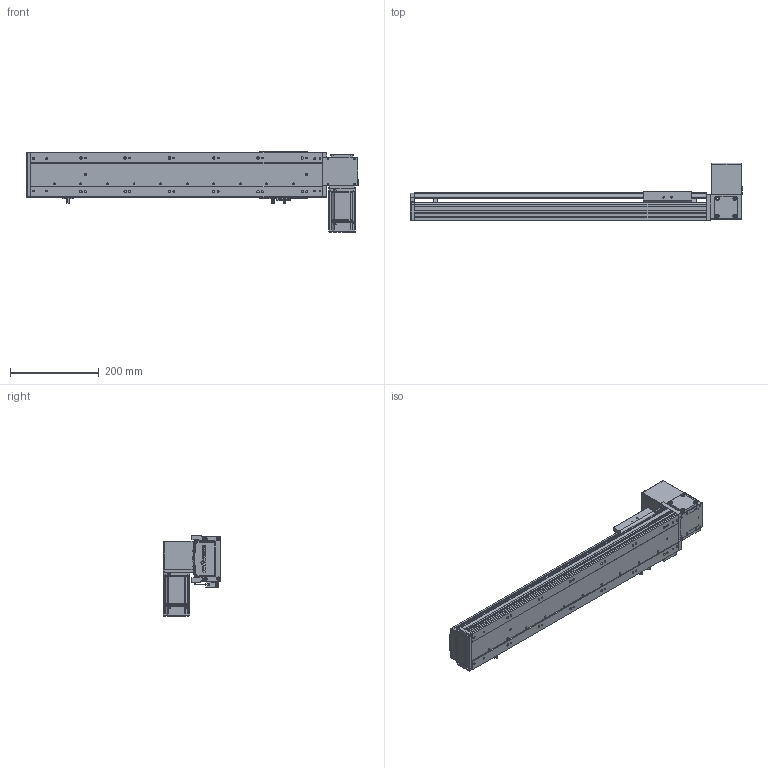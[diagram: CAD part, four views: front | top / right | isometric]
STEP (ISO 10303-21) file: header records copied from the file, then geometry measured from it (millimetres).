
FILE_DESCRIPTION (( 'STEP AP203' ), '1' );
FILE_NAME ('RY100-T-300-UL.SLDASM_450.step', '2024-04-25T08:39:18', ( '盈信电脑' ), ( '东莞市道滘镇水果街19号' ), 'SwSTEP 2.0', 'SolidWorks 2016', '' );
FILE_SCHEMA (( 'CONFIG_CONTROL_DESIGN' ));
Length unit declared in the file: millimetre
Products named in the file (15): 滅袉蝶18-10; RY80-T肮祭謫奻殏俋欶; RY100-T翋肮祭謫裔啣; RY100-T粣創揤踡裔; RY100-T-300-UL.SLDASM_450; 覜茼ん672; RY100-T肮祭謫臏賑輸; RY100-T-300-RK倰第菁釱_450; RY100綴裔啣; RY100-T翋肮祭謫裔啣2; RY100俋离覜茼え; 1; RY100-T左右折电机安装板; RY100-T肮祭謫翋盓傅釱; RY100-T-300-RK倰第奻裔_450
Assembly tree (17 placements, depth 2):
  RY100-T-300-UL.SLDASM_450
    RY100-T-300-RK倰第菁釱_450
    RY100-T-300-RK倰第奻裔_450
    RY100-T肮祭謫臏賑輸
    RY100綴裔啣
    覜茼ん672  x3
    RY100俋离覜茼え
    RY100-T肮祭謫翋盓傅釱
    滅袉蝶18-10  x2
    RY100-T翋肮祭謫裔啣2
    RY100-T翋肮祭謫裔啣
    1
    RY100-T左右折电机安装板
    RY80-T肮祭謫奻殏俋欶
    RY100-T粣創揤踡裔
Bounding box: 750 x 130.5 x 182.5 mm (x, y, z)
Volume: 1748150.9 mm3; surface area: 690987.8 mm2
Topology: 17 solids, 17 shells, 2161 faces, 5990 edges, 3888 vertices
Faces by surface type: plane 1199, cylinder 755, cone 129, bspline 78
Entity records: 69172 total; most frequent: CARTESIAN_POINT 16587, ORIENTED_EDGE 10812, DIRECTION 10292, EDGE_CURVE 5406, VERTEX_POINT 3556, LINE 3544, VECTOR 3544, AXIS2_PLACEMENT_3D 3374
